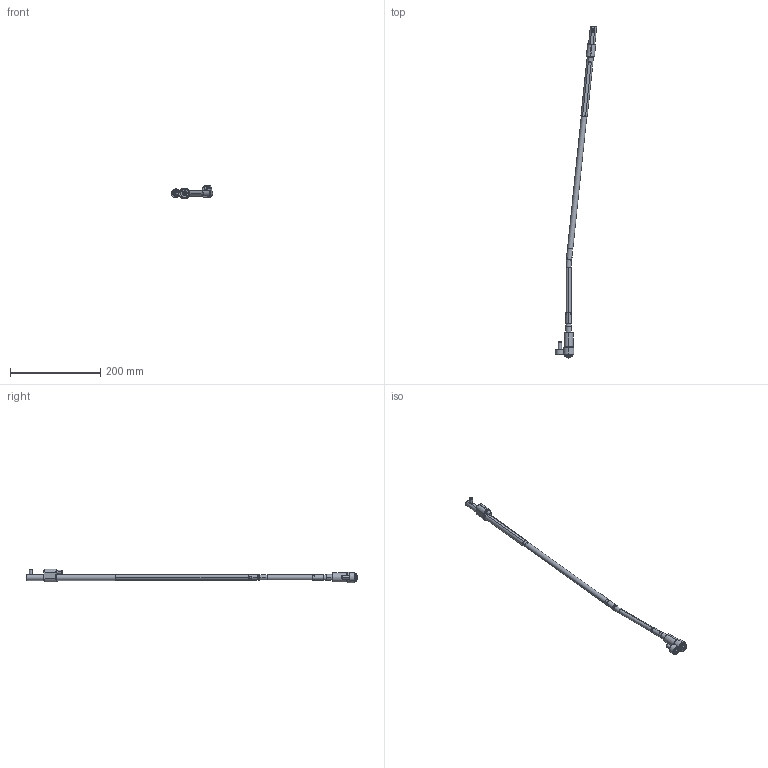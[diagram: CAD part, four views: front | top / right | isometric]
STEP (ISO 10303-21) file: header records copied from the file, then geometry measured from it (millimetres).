
FILE_DESCRIPTION (( 'STEP AP214' ), '1' );
FILE_NAME ('WL120100-INJ 6°.STEP', '2021-03-19T15:36:22', ( '' ), ( '' ), 'SwSTEP 2.0', 'SolidWorks 2019', '' );
FILE_SCHEMA (( 'AUTOMOTIVE_DESIGN' ));
Length unit declared in the file: millimetre
Products named in the file (17): 9DR2808-TOR; 1DIN912820_DIN 912 M8 x 20 --- 20C; WL120100-B1; 3IMAN5X3-150_con sellador; 8WL12EJEP; Web-WL12-F00.SLDPRT; WL120100-INJ 6°; Web-WL12-XX_OFF-WL120100-6; Web-WL12-F01; Web-WL12-A3; 1DIN912645_DIN 912 M6 x 45 --- 45C; Web-WL12-A8; WL120100-D; Web-WL12-A1; WL120100-E; Web-WL12-A2; WL120100-B
Assembly tree (16 placements, depth 3):
  WL120100-INJ 6°
    Web-WL12-A8
    Web-WL12-XX_OFF-WL120100-6
    Web-WL12-A3
    Web-WL12-A2
    Web-WL12-A1
    Web-WL12-F00.SLDPRT
      Web-WL12-F01
      1DIN912820_DIN 912 M8 x 20 --- 20C
      1DIN912645_DIN 912 M6 x 45 --- 45C
    WL120100-D
    8WL12EJEP
    WL120100-E
    9DR2808-TOR
    WL120100-B
      WL120100-B1
      3IMAN5X3-150_con sellador
Bounding box: 91.54 x 735.79 x 29.9 mm (x, y, z)
Volume: 113339.2 mm3; surface area: 49841.4 mm2
Topology: 15 solids, 15 shells, 432 faces, 906 edges, 525 vertices
Faces by surface type: plane 139, cylinder 123, cone 120, torus 50
Entity records: 13661 total; most frequent: DIRECTION 2240, CARTESIAN_POINT 2104, ORIENTED_EDGE 1788, AXIS2_PLACEMENT_3D 929, EDGE_CURVE 894, VERTEX_POINT 525, EDGE_LOOP 477, CIRCLE 476
